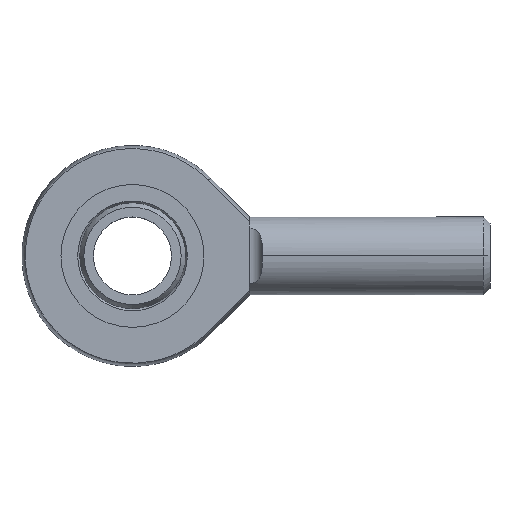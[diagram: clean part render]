
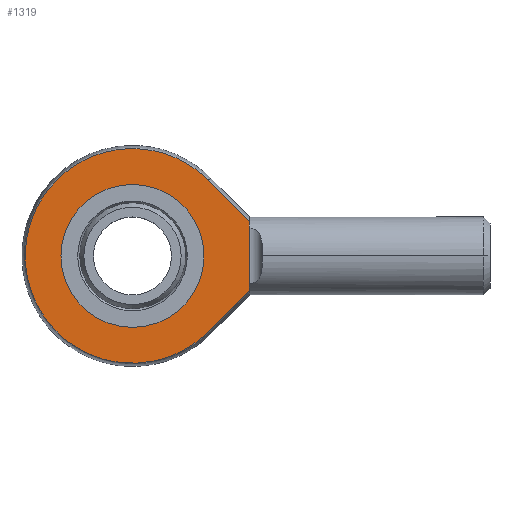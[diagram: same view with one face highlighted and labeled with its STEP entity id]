
A CAD part, top view. The second image highlights one B-rep face of the part: STEP entity #1319.
In plain terms, the highlighted planar face has unit normal (0, 0, 1).
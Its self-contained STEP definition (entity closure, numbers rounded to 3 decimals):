
#1 = CARTESIAN_POINT ( 'NONE',  ( -2., 0., 8.5 ) ) ;
#42 = DIRECTION ( 'NONE',  ( 0., 0., 1. ) ) ;
#50 = VERTEX_POINT ( 'NONE', #1525 ) ;
#67 = CARTESIAN_POINT ( 'NONE',  ( -2., -5.301, 8.5 ) ) ;
#71 = CARTESIAN_POINT ( 'NONE',  ( -29.192, -13.8, 8.5 ) ) ;
#73 = EDGE_CURVE ( 'NONE', #151, #50, #542, .T. ) ;
#82 = CARTESIAN_POINT ( 'NONE',  ( -13.628, -15.307, 8.5 ) ) ;
#88 = CARTESIAN_POINT ( 'NONE',  ( -31., 0., 8.5 ) ) ;
#89 = VERTEX_POINT ( 'NONE', #1130 ) ;
#93 = CARTESIAN_POINT ( 'NONE',  ( -19.965, 16.581, 8.5 ) ) ;
#100 = CARTESIAN_POINT ( 'NONE',  ( -34.622, 7.819, 8.5 ) ) ;
#120 = EDGE_LOOP ( 'NONE', ( #657, #925 ) ) ;
#132 = DIRECTION ( 'NONE',  ( 0., 1., 0. ) ) ;
#145 = B_SPLINE_CURVE_WITH_KNOTS ( 'NONE', 3,
 ( #1681, #354, #608, #736 ),
 .UNSPECIFIED., .F., .F.,
 ( 4, 4 ),
 ( 0.144, 1. ),
 .UNSPECIFIED. ) ;
#151 = VERTEX_POINT ( 'NONE', #415 ) ;
#205 = CARTESIAN_POINT ( 'NONE',  ( -23.216, 16.266, 8.5 ) ) ;
#214 = CARTESIAN_POINT ( 'NONE',  ( -8.302, -11.637, 8.5 ) ) ;
#230 = CARTESIAN_POINT ( 'NONE',  ( -8.302, 11.637, 8.5 ) ) ;
#237 = CARTESIAN_POINT ( 'NONE',  ( -35.313, -6.358, 8.5 ) ) ;
#284 = FACE_OUTER_BOUND ( 'NONE', #1306, .T. ) ;
#322 = DIRECTION ( 'NONE',  ( 1., 0., 0. ) ) ;
#334 = CARTESIAN_POINT ( 'NONE',  ( -18.351, 16.498, 8.5 ) ) ;
#340 = CARTESIAN_POINT ( 'NONE',  ( -27.804, 14.629, 8.5 ) ) ;
#354 = CARTESIAN_POINT ( 'NONE',  ( -4.101, 7.413, 8.5 ) ) ;
#358 = CARTESIAN_POINT ( 'NONE',  ( -35.313, 6.358, 8.5 ) ) ;
#399 = DIRECTION ( 'NONE',  ( 0., 1., 0. ) ) ;
#415 = CARTESIAN_POINT ( 'NONE',  ( -8.302, 11.637, 8.5 ) ) ;
#421 = VERTEX_POINT ( 'NONE', #88 ) ;
#449 = CARTESIAN_POINT ( 'NONE',  ( -8.302, -11.637, 8.5 ) ) ;
#457 = CARTESIAN_POINT ( 'NONE',  ( -6.202, -9.525, 8.5 ) ) ;
#460 = CIRCLE ( 'NONE', #1630, 11. ) ;
#461 = CARTESIAN_POINT ( 'NONE',  ( -19.965, -16.581, 8.5 ) ) ;
#542 = B_SPLINE_CURVE_WITH_KNOTS ( 'NONE', 3,
 ( #230, #721, #1645, #1394, #749, #334, #93, #205, #1270, #340, #620, #1635, #1253, #100, #358, #1141, #890, #870, #1665, #237, #1114, #1626, #739, #71, #595, #996, #1506, #461, #613, #859, #82, #1376, #1261, #214 ),
 .UNSPECIFIED., .F., .F.,
 ( 4, 2, 2, 2, 2, 2, 2, 2, 2, 2, 2, 2, 2, 2, 2, 2, 4 ),
 ( 0., 0.062, 0.125, 0.187, 0.25, 0.312, 0.375, 0.437, 0.5, 0.562, 0.625, 0.687, 0.75, 0.812, 0.875, 0.938, 1. ),
 .UNSPECIFIED. ) ;
#549 = LINE ( 'NONE', #652, #1572 ) ;
#556 = LINE ( 'NONE', #1, #619 ) ;
#562 = CARTESIAN_POINT ( 'NONE',  ( -9., 0., 8.5 ) ) ;
#579 = EDGE_CURVE ( 'NONE', #835, #1392, #556, .T. ) ;
#595 = CARTESIAN_POINT ( 'NONE',  ( -27.804, -14.629, 8.5 ) ) ;
#608 = CARTESIAN_POINT ( 'NONE',  ( -6.202, 9.525, 8.5 ) ) ;
#609 = EDGE_CURVE ( 'NONE', #1631, #89, #549, .T. ) ;
#613 = CARTESIAN_POINT ( 'NONE',  ( -18.351, -16.498, 8.5 ) ) ;
#619 = VECTOR ( 'NONE', #132, 1000. ) ;
#620 = CARTESIAN_POINT ( 'NONE',  ( -29.192, 13.8, 8.5 ) ) ;
#652 = CARTESIAN_POINT ( 'NONE',  ( -2., 0., 8.5 ) ) ;
#657 = ORIENTED_EDGE ( 'NONE', *, *, #746, .F. ) ;
#692 = CARTESIAN_POINT ( 'NONE',  ( -20., 0., 8.5 ) ) ;
#721 = CARTESIAN_POINT ( 'NONE',  ( -9.454, 12.795, 8.5 ) ) ;
#724 = VERTEX_POINT ( 'NONE', #562 ) ;
#736 = CARTESIAN_POINT ( 'NONE',  ( -8.302, 11.637, 8.5 ) ) ;
#739 = CARTESIAN_POINT ( 'NONE',  ( -31.718, -11.73, 8.5 ) ) ;
#746 = EDGE_CURVE ( 'NONE', #421, #724, #1465, .T. ) ;
#749 = CARTESIAN_POINT ( 'NONE',  ( -15.148, 15.855, 8.5 ) ) ;
#755 = EDGE_CURVE ( 'NONE', #50, #1631, #1343, .T. ) ;
#813 = VECTOR ( 'NONE', #1323, 1000. ) ;
#835 = VERTEX_POINT ( 'NONE', #848 ) ;
#848 = CARTESIAN_POINT ( 'NONE',  ( -2., 4.235, 8.5 ) ) ;
#859 = CARTESIAN_POINT ( 'NONE',  ( -15.148, -15.855, 8.5 ) ) ;
#870 = CARTESIAN_POINT ( 'NONE',  ( -36.5, -1.633, 8.5 ) ) ;
#884 = ORIENTED_EDGE ( 'NONE', *, *, #942, .T. ) ;
#890 = CARTESIAN_POINT ( 'NONE',  ( -36.5, 1.633, 8.5 ) ) ;
#925 = ORIENTED_EDGE ( 'NONE', *, *, #973, .F. ) ;
#930 = ORIENTED_EDGE ( 'NONE', *, *, #994, .T. ) ;
#942 = EDGE_CURVE ( 'NONE', #1392, #151, #145, .T. ) ;
#973 = EDGE_CURVE ( 'NONE', #724, #421, #460, .T. ) ;
#982 = ORIENTED_EDGE ( 'NONE', *, *, #73, .T. ) ;
#994 = EDGE_CURVE ( 'NONE', #89, #835, #1688, .T. ) ;
#996 = CARTESIAN_POINT ( 'NONE',  ( -24.785, -15.875, 8.5 ) ) ;
#1046 = ORIENTED_EDGE ( 'NONE', *, *, #579, .T. ) ;
#1051 = CARTESIAN_POINT ( 'NONE',  ( -2., 5.301, 8.5 ) ) ;
#1055 = CARTESIAN_POINT ( 'NONE',  ( -2., 0., 8.5 ) ) ;
#1100 = FACE_BOUND ( 'NONE', #120, .T. ) ;
#1114 = CARTESIAN_POINT ( 'NONE',  ( -34.621, -7.818, 8.5 ) ) ;
#1119 = DIRECTION ( 'NONE',  ( 0., 0., 1. ) ) ;
#1130 = CARTESIAN_POINT ( 'NONE',  ( -2., -4.235, 8.5 ) ) ;
#1132 = ORIENTED_EDGE ( 'NONE', *, *, #609, .T. ) ;
#1141 = CARTESIAN_POINT ( 'NONE',  ( -36.263, 3.232, 8.5 ) ) ;
#1154 = DIRECTION ( 'NONE',  ( 1., 0., 0. ) ) ;
#1171 = ORIENTED_EDGE ( 'NONE', *, *, #755, .T. ) ;
#1200 = DIRECTION ( 'NONE',  ( 1., 0., 0. ) ) ;
#1231 = CARTESIAN_POINT ( 'NONE',  ( -4.101, -7.413, 8.5 ) ) ;
#1244 = CARTESIAN_POINT ( 'NONE',  ( -2., -5.301, 8.5 ) ) ;
#1253 = CARTESIAN_POINT ( 'NONE',  ( -32.805, 10.533, 8.5 ) ) ;
#1261 = CARTESIAN_POINT ( 'NONE',  ( -9.455, -12.795, 8.5 ) ) ;
#1270 = CARTESIAN_POINT ( 'NONE',  ( -24.785, 15.875, 8.5 ) ) ;
#1306 = EDGE_LOOP ( 'NONE', ( #1171, #1132, #930, #1046, #884, #982 ) ) ;
#1319 = ADVANCED_FACE ( 'NONE', ( #1100, #284 ), #1599, .T. ) ;
#1323 = DIRECTION ( 'NONE',  ( 0., 1., 0. ) ) ;
#1343 = B_SPLINE_CURVE_WITH_KNOTS ( 'NONE', 3,
 ( #449, #457, #1231, #67 ),
 .UNSPECIFIED., .F., .F.,
 ( 4, 4 ),
 ( 0., 0.856 ),
 .UNSPECIFIED. ) ;
#1347 = CARTESIAN_POINT ( 'NONE',  ( -20., 0., 8.5 ) ) ;
#1358 = AXIS2_PLACEMENT_3D ( 'NONE', #692, #42, #322 ) ;
#1361 = AXIS2_PLACEMENT_3D ( 'NONE', #1347, #1364, #1200 ) ;
#1364 = DIRECTION ( 'NONE',  ( 0., 0., 1. ) ) ;
#1376 = CARTESIAN_POINT ( 'NONE',  ( -10.75, -13.761, 8.5 ) ) ;
#1392 = VERTEX_POINT ( 'NONE', #1051 ) ;
#1394 = CARTESIAN_POINT ( 'NONE',  ( -13.627, 15.307, 8.5 ) ) ;
#1406 = CARTESIAN_POINT ( 'NONE',  ( -20., 0., 8.5 ) ) ;
#1465 = CIRCLE ( 'NONE', #1358, 11. ) ;
#1506 = CARTESIAN_POINT ( 'NONE',  ( -23.216, -16.266, 8.5 ) ) ;
#1525 = CARTESIAN_POINT ( 'NONE',  ( -8.302, -11.637, 8.5 ) ) ;
#1572 = VECTOR ( 'NONE', #399, 1000. ) ;
#1599 = PLANE ( 'NONE',  #1361 ) ;
#1626 = CARTESIAN_POINT ( 'NONE',  ( -32.805, -10.533, 8.5 ) ) ;
#1630 = AXIS2_PLACEMENT_3D ( 'NONE', #1406, #1119, #1154 ) ;
#1631 = VERTEX_POINT ( 'NONE', #1244 ) ;
#1635 = CARTESIAN_POINT ( 'NONE',  ( -31.719, 11.73, 8.5 ) ) ;
#1645 = CARTESIAN_POINT ( 'NONE',  ( -10.75, 13.761, 8.5 ) ) ;
#1665 = CARTESIAN_POINT ( 'NONE',  ( -36.262, -3.232, 8.5 ) ) ;
#1681 = CARTESIAN_POINT ( 'NONE',  ( -2., 5.301, 8.5 ) ) ;
#1688 = LINE ( 'NONE', #1055, #813 ) ;
